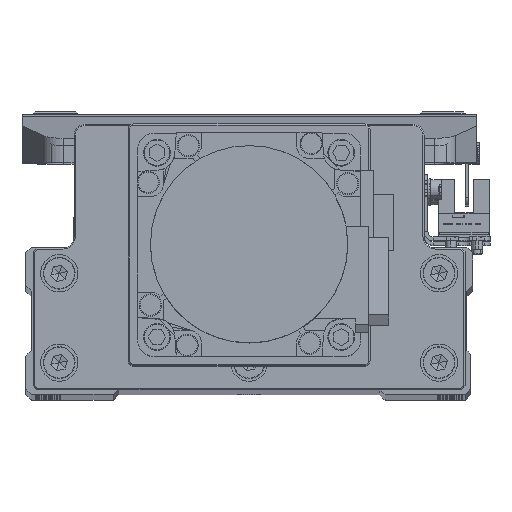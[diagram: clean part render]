
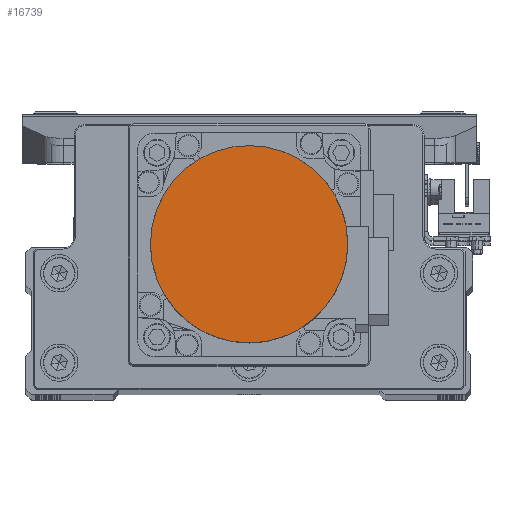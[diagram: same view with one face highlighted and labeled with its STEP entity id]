
A CAD part, top view. The second image highlights one B-rep face of the part: STEP entity #16739.
In plain terms, the highlighted planar face has unit normal (0, 0, 1) as drawn and (0, 0, -1) by its records, which use the part's own axes.
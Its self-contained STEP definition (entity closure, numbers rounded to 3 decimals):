
#267 = PLANE ( 'NONE',  #8922 ) ;
#1225 = EDGE_LOOP ( 'NONE', ( #37459, #28832 ) ) ;
#8753 = CARTESIAN_POINT ( 'NONE',  ( 0., 0., -109.7 ) ) ;
#8922 = AXIS2_PLACEMENT_3D ( 'NONE', #14191, #28094, #42014 ) ;
#9347 = CARTESIAN_POINT ( 'NONE',  ( -26.5, 0., -109.7 ) ) ;
#11543 = CIRCLE ( 'NONE', #37021, 26.5 ) ;
#14025 = CARTESIAN_POINT ( 'NONE',  ( 0., 0., -109.7 ) ) ;
#14191 = CARTESIAN_POINT ( 'NONE',  ( 0., 0., -109.7 ) ) ;
#16739 = ADVANCED_FACE ( 'NONE', ( #31499 ), #267, .F. ) ;
#16908 = CARTESIAN_POINT ( 'NONE',  ( 26.5, 0., -109.7 ) ) ;
#17542 = EDGE_CURVE ( 'NONE', #18372, #18607, #40272, .T. ) ;
#18372 = VERTEX_POINT ( 'NONE', #16908 ) ;
#18607 = VERTEX_POINT ( 'NONE', #9347 ) ;
#20618 = AXIS2_PLACEMENT_3D ( 'NONE', #14025, #27925, #41842 ) ;
#22647 = DIRECTION ( 'NONE',  ( 0., 0., 1. ) ) ;
#25397 = EDGE_CURVE ( 'NONE', #18607, #18372, #11543, .T. ) ;
#27925 = DIRECTION ( 'NONE',  ( 0., 0., 1. ) ) ;
#28094 = DIRECTION ( 'NONE',  ( 0., 0., 1. ) ) ;
#28832 = ORIENTED_EDGE ( 'NONE', *, *, #17542, .F. ) ;
#31499 = FACE_OUTER_BOUND ( 'NONE', #1225, .T. ) ;
#36534 = DIRECTION ( 'NONE',  ( -1., 0., 0. ) ) ;
#37021 = AXIS2_PLACEMENT_3D ( 'NONE', #8753, #22647, #36534 ) ;
#37459 = ORIENTED_EDGE ( 'NONE', *, *, #25397, .F. ) ;
#40272 = CIRCLE ( 'NONE', #20618, 26.5 ) ;
#41842 = DIRECTION ( 'NONE',  ( 1., 0., 0. ) ) ;
#42014 = DIRECTION ( 'NONE',  ( 1., 0., 0. ) ) ;
